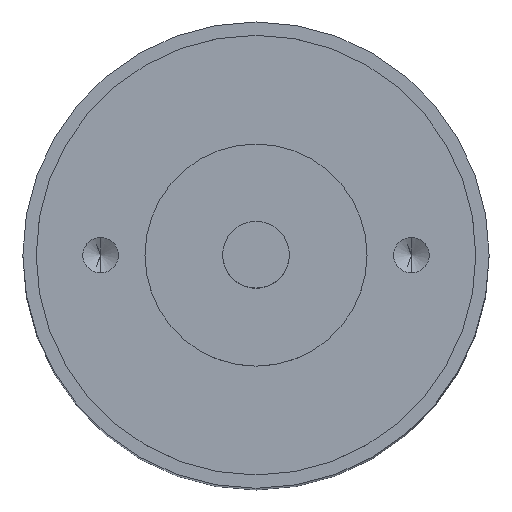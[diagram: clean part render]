
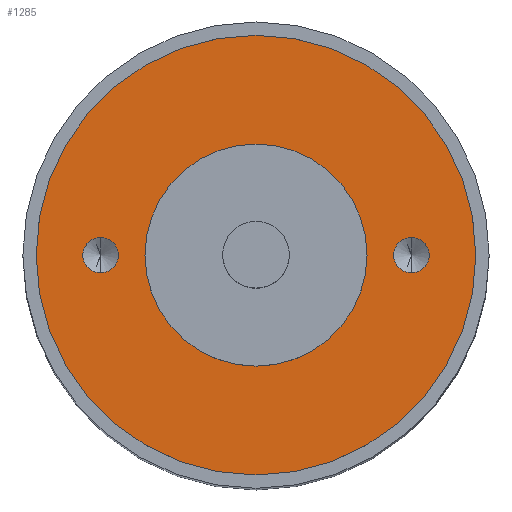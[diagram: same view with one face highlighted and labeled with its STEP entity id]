
A CAD part, top view. The second image highlights one B-rep face of the part: STEP entity #1285.
In plain terms, the highlighted planar face has unit normal (0, 0, 1).
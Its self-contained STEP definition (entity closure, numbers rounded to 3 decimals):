
#26 = CARTESIAN_POINT ( 'NONE',  ( 7., 0., 0. ) ) ;
#33 = EDGE_LOOP ( 'NONE', ( #1086, #857 ) ) ;
#36 = CIRCLE ( 'NONE', #343, 9.9 ) ;
#67 = DIRECTION ( 'NONE',  ( 0., 1., 0. ) ) ;
#75 = AXIS2_PLACEMENT_3D ( 'NONE', #970, #76, #471 ) ;
#76 = DIRECTION ( 'NONE',  ( 0., 0., 1. ) ) ;
#86 = CARTESIAN_POINT ( 'NONE',  ( 0., 0., 0. ) ) ;
#116 = EDGE_CURVE ( 'NONE', #1162, #222, #36, .T. ) ;
#134 = DIRECTION ( 'NONE',  ( 0., 0., 1. ) ) ;
#145 = ORIENTED_EDGE ( 'NONE', *, *, #1119, .T. ) ;
#151 = CARTESIAN_POINT ( 'NONE',  ( 7., 0.8, 0. ) ) ;
#156 = CARTESIAN_POINT ( 'NONE',  ( 0., 0., 0. ) ) ;
#187 = CIRCLE ( 'NONE', #344, 5. ) ;
#212 = DIRECTION ( 'NONE',  ( 0., 0., 1. ) ) ;
#222 = VERTEX_POINT ( 'NONE', #1231 ) ;
#236 = ORIENTED_EDGE ( 'NONE', *, *, #551, .F. ) ;
#284 = AXIS2_PLACEMENT_3D ( 'NONE', #1011, #134, #311 ) ;
#287 = EDGE_CURVE ( 'NONE', #898, #393, #911, .T. ) ;
#290 = FACE_BOUND ( 'NONE', #743, .T. ) ;
#299 = PLANE ( 'NONE',  #481 ) ;
#311 = DIRECTION ( 'NONE',  ( 0., -1., 0. ) ) ;
#314 = ORIENTED_EDGE ( 'NONE', *, *, #432, .F. ) ;
#343 = AXIS2_PLACEMENT_3D ( 'NONE', #776, #1169, #1184 ) ;
#344 = AXIS2_PLACEMENT_3D ( 'NONE', #156, #1257, #347 ) ;
#347 = DIRECTION ( 'NONE',  ( 0., 1., 0. ) ) ;
#381 = AXIS2_PLACEMENT_3D ( 'NONE', #26, #212, #526 ) ;
#393 = VERTEX_POINT ( 'NONE', #151 ) ;
#429 = EDGE_CURVE ( 'NONE', #1216, #1168, #187, .T. ) ;
#432 = EDGE_CURVE ( 'NONE', #783, #796, #1017, .T. ) ;
#455 = ORIENTED_EDGE ( 'NONE', *, *, #429, .T. ) ;
#457 = DIRECTION ( 'NONE',  ( 0., 1., 0. ) ) ;
#467 = DIRECTION ( 'NONE',  ( 0., 0., -1. ) ) ;
#471 = DIRECTION ( 'NONE',  ( 0., -1., 0. ) ) ;
#481 = AXIS2_PLACEMENT_3D ( 'NONE', #698, #615, #713 ) ;
#493 = CIRCLE ( 'NONE', #791, 9.9 ) ;
#526 = DIRECTION ( 'NONE',  ( 0., -1., 0. ) ) ;
#551 = EDGE_CURVE ( 'NONE', #796, #783, #973, .T. ) ;
#560 = CARTESIAN_POINT ( 'NONE',  ( 0., -9.9, 0. ) ) ;
#561 = EDGE_LOOP ( 'NONE', ( #145, #455 ) ) ;
#575 = ORIENTED_EDGE ( 'NONE', *, *, #922, .F. ) ;
#586 = CARTESIAN_POINT ( 'NONE',  ( 0., 5., 0. ) ) ;
#599 = CARTESIAN_POINT ( 'NONE',  ( 0., -5., 0. ) ) ;
#615 = DIRECTION ( 'NONE',  ( 0., 0., 1. ) ) ;
#636 = CARTESIAN_POINT ( 'NONE',  ( -7., -0.8, 0. ) ) ;
#657 = CARTESIAN_POINT ( 'NONE',  ( -7., 0.8, 0. ) ) ;
#670 = EDGE_CURVE ( 'NONE', #393, #898, #1053, .T. ) ;
#698 = CARTESIAN_POINT ( 'NONE',  ( 0., 5., 0. ) ) ;
#713 = DIRECTION ( 'NONE',  ( 0., -1., 0. ) ) ;
#743 = EDGE_LOOP ( 'NONE', ( #314, #236 ) ) ;
#744 = DIRECTION ( 'NONE',  ( 0., 0., 1. ) ) ;
#764 = EDGE_LOOP ( 'NONE', ( #575, #1170 ) ) ;
#770 = AXIS2_PLACEMENT_3D ( 'NONE', #1166, #1049, #457 ) ;
#776 = CARTESIAN_POINT ( 'NONE',  ( 0., 0., 0. ) ) ;
#783 = VERTEX_POINT ( 'NONE', #636 ) ;
#791 = AXIS2_PLACEMENT_3D ( 'NONE', #86, #467, #67 ) ;
#796 = VERTEX_POINT ( 'NONE', #657 ) ;
#853 = AXIS2_PLACEMENT_3D ( 'NONE', #1043, #744, #1132 ) ;
#857 = ORIENTED_EDGE ( 'NONE', *, *, #670, .F. ) ;
#898 = VERTEX_POINT ( 'NONE', #1262 ) ;
#910 = FACE_BOUND ( 'NONE', #33, .T. ) ;
#911 = CIRCLE ( 'NONE', #284, 0.8 ) ;
#922 = EDGE_CURVE ( 'NONE', #222, #1162, #493, .T. ) ;
#970 = CARTESIAN_POINT ( 'NONE',  ( -7., 0., 0. ) ) ;
#973 = CIRCLE ( 'NONE', #75, 0.8 ) ;
#1011 = CARTESIAN_POINT ( 'NONE',  ( 7., 0., 0. ) ) ;
#1017 = CIRCLE ( 'NONE', #853, 0.8 ) ;
#1043 = CARTESIAN_POINT ( 'NONE',  ( -7., 0., 0. ) ) ;
#1049 = DIRECTION ( 'NONE',  ( 0., 0., -1. ) ) ;
#1053 = CIRCLE ( 'NONE', #381, 0.8 ) ;
#1086 = ORIENTED_EDGE ( 'NONE', *, *, #287, .F. ) ;
#1104 = FACE_BOUND ( 'NONE', #561, .T. ) ;
#1119 = EDGE_CURVE ( 'NONE', #1168, #1216, #1140, .T. ) ;
#1132 = DIRECTION ( 'NONE',  ( 0., -1., 0. ) ) ;
#1140 = CIRCLE ( 'NONE', #770, 5. ) ;
#1162 = VERTEX_POINT ( 'NONE', #560 ) ;
#1166 = CARTESIAN_POINT ( 'NONE',  ( 0., 0., 0. ) ) ;
#1168 = VERTEX_POINT ( 'NONE', #586 ) ;
#1169 = DIRECTION ( 'NONE',  ( 0., 0., -1. ) ) ;
#1170 = ORIENTED_EDGE ( 'NONE', *, *, #116, .F. ) ;
#1184 = DIRECTION ( 'NONE',  ( 0., 1., 0. ) ) ;
#1201 = FACE_OUTER_BOUND ( 'NONE', #764, .T. ) ;
#1216 = VERTEX_POINT ( 'NONE', #599 ) ;
#1231 = CARTESIAN_POINT ( 'NONE',  ( 0., 9.9, 0. ) ) ;
#1257 = DIRECTION ( 'NONE',  ( 0., 0., -1. ) ) ;
#1262 = CARTESIAN_POINT ( 'NONE',  ( 7., -0.8, 0. ) ) ;
#1285 = ADVANCED_FACE ( 'NONE', ( #290, #910, #1104, #1201 ), #299, .T. ) ;
